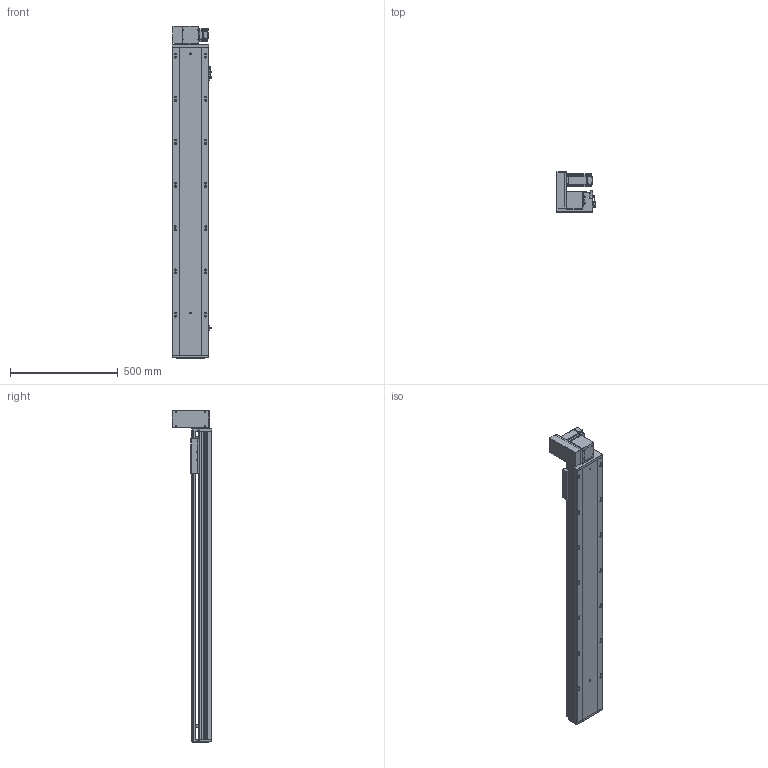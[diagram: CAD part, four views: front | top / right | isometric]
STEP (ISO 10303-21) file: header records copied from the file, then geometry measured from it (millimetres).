
FILE_DESCRIPTION (( 'STEP AP203' ), '1' );
FILE_NAME ('RY170-T-300-UL-P400W.SLDASM_1150.step', '2021-03-02T02:13:04', ( '盈信电脑' ), ( '东莞市道滘镇水果街19号' ), 'SwSTEP 2.0', 'SolidWorks 2012', '' );
FILE_SCHEMA (( 'CONFIG_CONTROL_DESIGN' ));
Length unit declared in the file: millimetre
Products named in the file (18): RY170-T-300-UL-P400W.SLDASM_1150; 15; RY170-T蹟翐M4; RY170肮祭謫萇儂欶; RY170同步轮电机安装板(400W); RY120-T主同步轮轴承压盖; RY170-T肮祭湍揤踡輸2; 滅袉蝶18-10; RY170-T肮祭謫裔啣; RY170-T肮祭湍揤踡輸1; RY170肮祭謫ヶ裔啣; RY170翋肮祭謫釱; RY170外置感应片(200共用）; 覜茼ん672; RY170肮祭湍臏賑輸; RY170綴裔啣; RY170-T-300肮祭謫倰第裔啣-DL_1150; RY170-T-300肮祭謫倰第菁釱-DL_1150
Assembly tree (20 placements, depth 2):
  RY170-T-300-UL-P400W.SLDASM_1150
    RY170-T-300肮祭謫倰第菁釱-DL_1150
    RY170肮祭湍臏賑輸
    RY170-T-300肮祭謫倰第裔啣-DL_1150
    RY170綴裔啣
    覜茼ん672  x3
    RY170外置感应片(200共用）
    RY170肮祭謫ヶ裔啣
    RY170翋肮祭謫釱
    RY170-T肮祭湍揤踡輸1
    RY170-T肮祭湍揤踡輸2
    RY170-T肮祭謫裔啣
    滅袉蝶18-10  x2
    RY120-T主同步轮轴承压盖
    RY170肮祭謫萇儂欶
    RY170同步轮电机安装板(400W)
    RY170-T蹟翐M4
    15
Bounding box: 183.7 x 184 x 1538 mm (x, y, z)
Volume: 7510622.8 mm3; surface area: 2542837.8 mm2
Topology: 20 solids, 20 shells, 2581 faces, 7166 edges, 4579 vertices
Faces by surface type: cylinder 1158, plane 1145, cone 248, bspline 30
Entity records: 81664 total; most frequent: CARTESIAN_POINT 17972, ORIENTED_EDGE 12952, DIRECTION 12814, EDGE_CURVE 6476, AXIS2_PLACEMENT_3D 4503, VERTEX_POINT 4247, LINE 3808, VECTOR 3808
